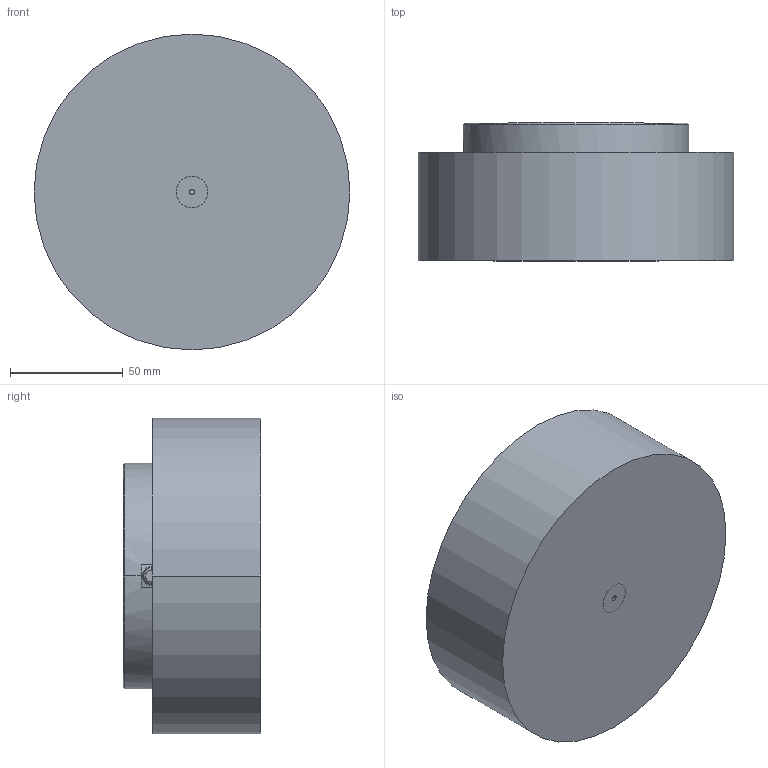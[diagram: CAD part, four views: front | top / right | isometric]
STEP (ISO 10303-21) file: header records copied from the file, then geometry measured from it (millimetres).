
FILE_DESCRIPTION((''),'2;1');
FILE_NAME('S34N102.stp','2020-09-17T15:17:17',(''),(''),'AutoCAD STEP 2000i','AutoCAD 2000i',', , ');
FILE_SCHEMA(('CONFIG_CONTROL_DESIGN'));
Length unit declared in the file: millimetre
Products named in the file (4): DRAWING1; MOLD BODY N34; NOZZLE S102N34; RING 34-2018
Assembly tree (3 placements, depth 2):
  DRAWING1
    MOLD BODY N34
    NOZZLE S102N34
    RING 34-2018
Bounding box: 140 x 61 x 140 mm (x, y, z)
Volume: 824228.3 mm3; surface area: 87421.1 mm2
Topology: 3 solids, 3 shells, 147 faces, 349 edges, 221 vertices
Faces by surface type: cylinder 58, cone 40, plane 27, bspline 12, torus 10
Entity records: 4897 total; most frequent: CARTESIAN_POINT 1202, DIRECTION 845, ORIENTED_EDGE 694, AXIS2_PLACEMENT_3D 367, EDGE_CURVE 347, CIRCLE 228, VERTEX_POINT 221, EDGE_LOOP 174
